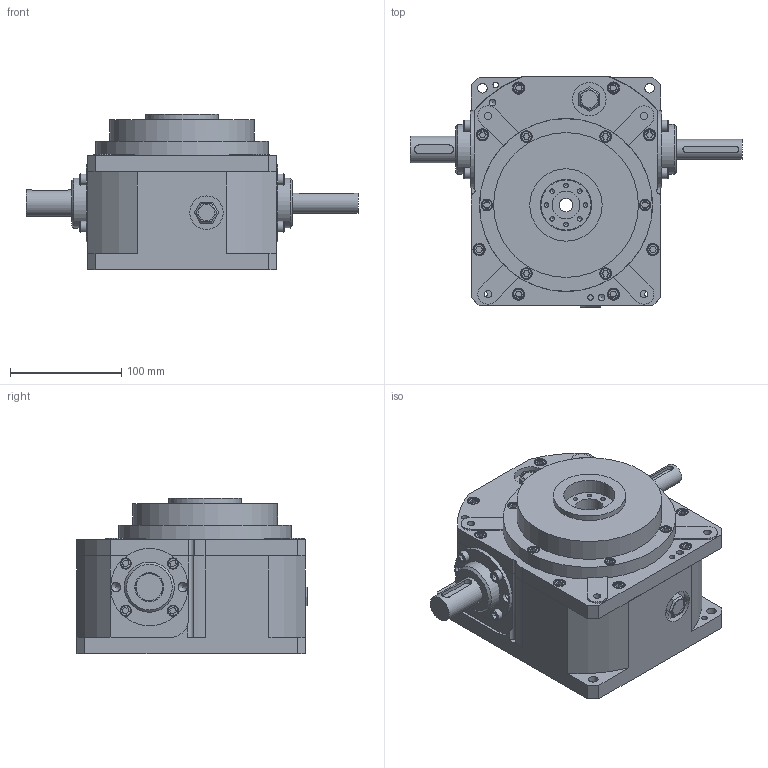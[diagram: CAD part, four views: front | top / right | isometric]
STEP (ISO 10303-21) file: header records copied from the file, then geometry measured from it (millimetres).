
FILE_DESCRIPTION( ( 'Unknown' ), '1' );
FILE_NAME( 'C:/Users/Diego/Desktop/T15.stp', 'Unknown', ( 'Unknown' ), ( 'Unknown' ), 'PSStep 17.0.49', 'Unknown', ' ' );
FILE_SCHEMA( ( 'AUTOMOTIVE_DESIGN { 1 0 10303 214 1 1 1 1 }' ) );
Length unit declared in the file: millimetre
Products named in the file (10): Assem1; CUX_SCHEMATICO_PROVVISORIO; 211202; 31276_; VITE_TCEI_M6x12_UNI5931; VITE_TCEI_M6x16_UNI5931; 02632_; VITE_TCEI_M6x20_UNI5931; TAPPO_TCDF_58651; 31275_
Assembly tree (30 placements, depth 2):
  Assem1
    CUX_SCHEMATICO_PROVVISORIO
    211202
    31276_
    VITE_TCEI_M6x12_UNI5931  x8
    VITE_TCEI_M6x16_UNI5931  x8
    02632_  x2
    VITE_TCEI_M6x20_UNI5931  x6
    TAPPO_TCDF_58651  x2
    31275_
Bounding box: 298 x 206.5 x 140 mm (x, y, z)
Volume: 2366733.1 mm3; surface area: 413483.4 mm2
Topology: 30 solids, 30 shells, 1019 faces, 2373 edges, 1489 vertices
Faces by surface type: plane 535, cylinder 318, cone 102, torus 41, sphere 14, bspline 9
Full cylindrical faces by diameter (mm): 2.5 x2, 4.134 x8, 4.917 x23, 5 x2, 6 x48, 6.25 x8, 6.5 x14, 6.647 x4, 8 x4, 8.376 x1, 8.5 x5, 8.6 x4, 10 x24, 10.5 x6, 11 x8, 12 x3, 15 x2, 18 x2, 20 x2, 22 x1, 24 x1, 25 x4, 26 x2, 30 x3, 32 x1, 35 x2, 39.5 x2, 40 x2, 42.6 x2, 45 x3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
Entity records: 22512 total; most frequent: CARTESIAN_POINT 6211, DIRECTION 2612, ORIENTED_EDGE 2114, AXIS2_PLACEMENT_3D 1068, EDGE_CURVE 1057, EDGE_LOOP 863, VERTEX_POINT 794, FACE_OUTER_BOUND 673
